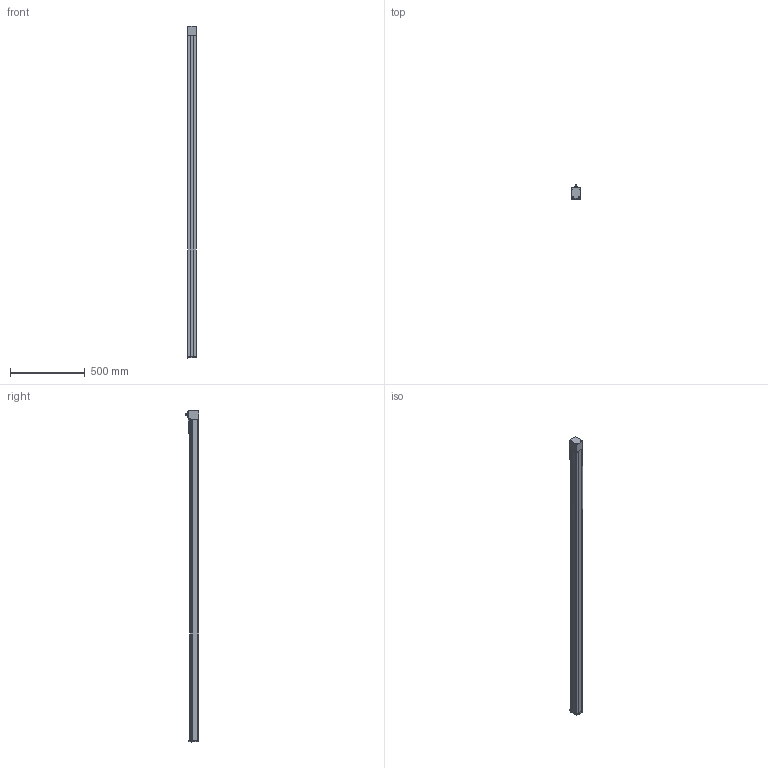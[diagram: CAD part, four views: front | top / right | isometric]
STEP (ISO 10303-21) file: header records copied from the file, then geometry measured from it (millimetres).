
FILE_DESCRIPTION(/* description */ ('STEP AP214'),/* implementation_level */ '2;1');
FILE_NAME(/* name */ 'MGTB 60 2000(0)',/* time_stamp */ '2023-04-17T13:42:16+02:00',/* author */ ('License CC BY-ND 4.0'),/* organization */ ('CADENAS'),/* preprocessor_version */ 'ST-DEVELOPER v19.3',/* originating_system */ 'PARTsolutions',/* authorisation */ ' ');
FILE_SCHEMA (('AUTOMOTIVE_DESIGN {1 0 10303 214 3 1 1}'));
Length unit declared in the file: millimetre
Products named in the file (6): MGTB 60 2000(0); MGTB 60 2000_protection_strip; MGTB 60_carriage; MGTB 60_end_block; MGTB 60 2000_profile; MGTB 60_drive_block
Assembly tree (5 placements, depth 2):
  MGTB 60 2000(0)
    MGTB 60 2000_protection_strip
    MGTB 60_carriage
    MGTB 60_end_block
    MGTB 60 2000_profile
    MGTB 60_drive_block
Bounding box: 60 x 92.5 x 2215.01 mm (x, y, z)
Volume: 7688820.1 mm3; surface area: 882344.1 mm2
Topology: 5 solids, 5 shells, 696 faces, 1771 edges, 1140 vertices
Faces by surface type: plane 351, cylinder 156, cone 94, bspline 68, torus 25, sphere 2
Full cylindrical faces by diameter (mm): 2 x1, 2.459 x4, 3.242 x6, 4 x12, 4.134 x8, 4.2 x2, 4.8 x2, 5 x2, 5.5 x4, 7 x6, 8 x4, 10 x1, 11 x3, 16 x1, 17 x1, 30 x1, 35 x1, 42 x2
Entity records: 25037 total; most frequent: CARTESIAN_POINT 4184, DIRECTION 3411, ORIENTED_EDGE 3232, EDGE_CURVE 1616, AXIS2_PLACEMENT_3D 1219, VERTEX_POINT 1120, LINE 973, VECTOR 973
